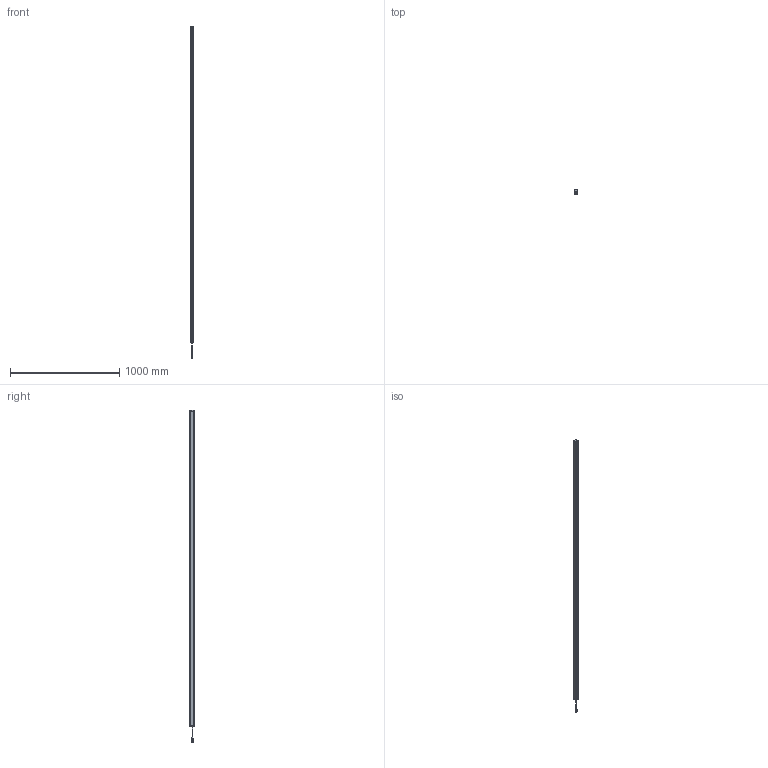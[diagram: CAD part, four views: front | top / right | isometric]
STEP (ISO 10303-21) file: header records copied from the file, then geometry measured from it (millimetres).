
FILE_DESCRIPTION((''),'2;1');
FILE_NAME('CT6-2872','2026-04-01T16:23:27',('Administrator'),(''),'CREO PARAMETRIC BY PTC INC, 2016510','CREO PARAMETRIC BY PTC INC, 2016510','');
FILE_SCHEMA(('AUTOMOTIVE_DESIGN { 1 0 10303 214 1 1 1 1 }'));
Length unit declared in the file: millimetre
Products named in the file (1): CT6-2872
Bounding box: 33 x 38 x 3041.9 mm (x, y, z)
Surface area: 616546 mm2 (no closed solid volume)
Topology: 0 solids, 12 shells, 626 faces, 1725 edges, 1121 vertices
Faces by surface type: plane 294, cylinder 240, torus 32, sphere 32, cone 28
Entity records: 24772 total; most frequent: CARTESIAN_POINT 4863, ORIENTED_EDGE 3370, DIRECTION 3059, EDGE_CURVE 1685, AXIS2_PLACEMENT_3D 1121, VERTEX_POINT 1121, VECTOR 817, LINE 817
